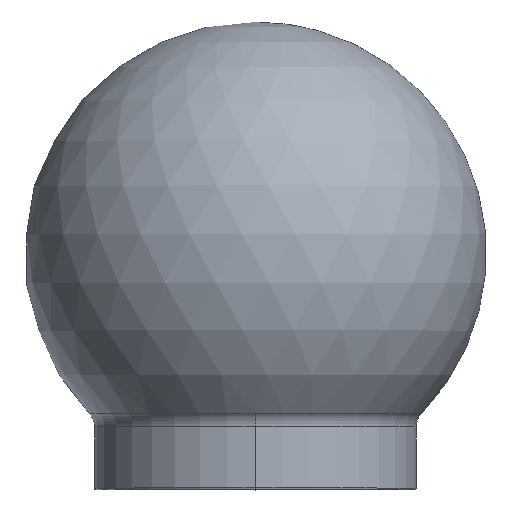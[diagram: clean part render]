
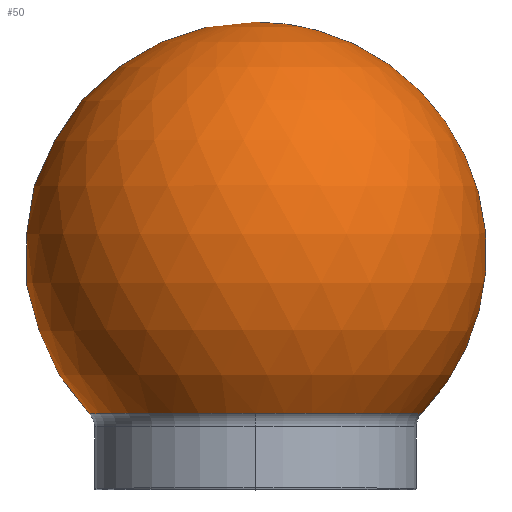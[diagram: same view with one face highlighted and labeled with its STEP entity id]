
A CAD part, top view. The second image highlights one B-rep face of the part: STEP entity #50.
In plain terms, the highlighted spherical face has radius 30 mm.
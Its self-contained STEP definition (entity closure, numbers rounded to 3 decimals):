
#42 = ORIENTED_EDGE ( 'NONE', *, *, #221, .F. ) ;
#50 = ADVANCED_FACE ( 'NONE', ( #248 ), #280, .T. ) ;
#54 = CARTESIAN_POINT ( 'NONE',  ( 0., 41.696, 0. ) ) ;
#60 = CARTESIAN_POINT ( 'NONE',  ( 0., 20.853, 0. ) ) ;
#70 = VERTEX_POINT ( 'NONE', #108 ) ;
#81 = CIRCLE ( 'NONE', #317, 21.577 ) ;
#86 = CARTESIAN_POINT ( 'NONE',  ( 0., 20.853, 0. ) ) ;
#107 = DIRECTION ( 'NONE',  ( 1., 0., 0. ) ) ;
#108 = CARTESIAN_POINT ( 'NONE',  ( 0., 20.853, 21.577 ) ) ;
#121 = DIRECTION ( 'NONE',  ( 0., 0., -1. ) ) ;
#139 = EDGE_CURVE ( 'NONE', #211, #70, #171, .T. ) ;
#155 = ORIENTED_EDGE ( 'NONE', *, *, #139, .F. ) ;
#171 = CIRCLE ( 'NONE', #199, 21.577 ) ;
#182 = EDGE_LOOP ( 'NONE', ( #155, #42 ) ) ;
#199 = AXIS2_PLACEMENT_3D ( 'NONE', #86, #241, #364 ) ;
#205 = CARTESIAN_POINT ( 'NONE',  ( 0., 20.853, -21.577 ) ) ;
#211 = VERTEX_POINT ( 'NONE', #205 ) ;
#218 = DIRECTION ( 'NONE',  ( 0., 1., 0. ) ) ;
#221 = EDGE_CURVE ( 'NONE', #70, #211, #81, .T. ) ;
#230 = DIRECTION ( 'NONE',  ( 0., -1., 0. ) ) ;
#241 = DIRECTION ( 'NONE',  ( 0., -1., 0. ) ) ;
#248 = FACE_BOUND ( 'NONE', #182, .T. ) ;
#277 = AXIS2_PLACEMENT_3D ( 'NONE', #54, #218, #107 ) ;
#280 = SPHERICAL_SURFACE ( 'NONE', #277, 30. ) ;
#317 = AXIS2_PLACEMENT_3D ( 'NONE', #60, #230, #121 ) ;
#364 = DIRECTION ( 'NONE',  ( 0., 0., -1. ) ) ;
